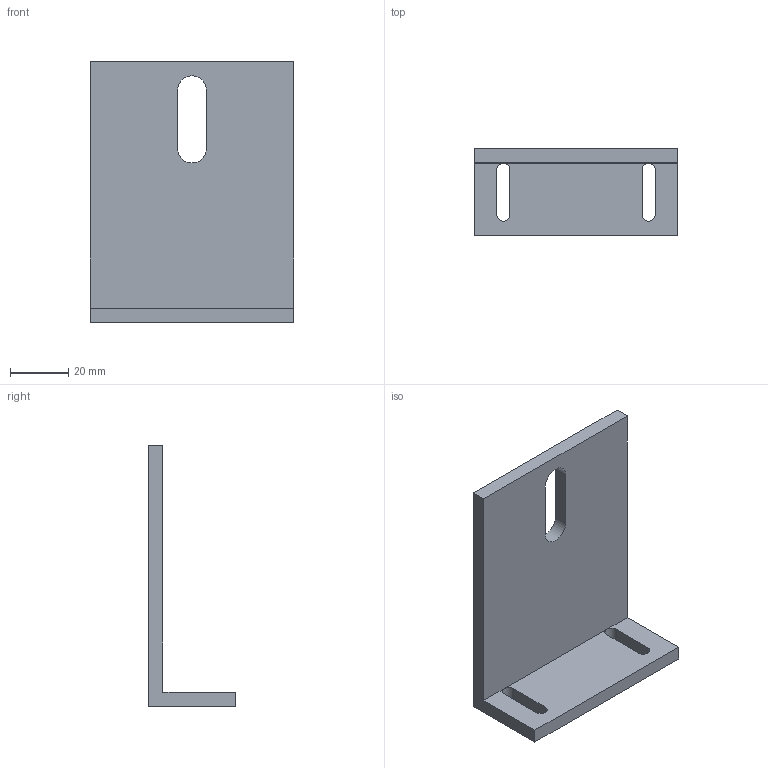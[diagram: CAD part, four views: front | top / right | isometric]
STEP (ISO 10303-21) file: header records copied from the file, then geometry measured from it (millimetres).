
FILE_DESCRIPTION(('Open CASCADE Model'),'2;1');
FILE_NAME('Open CASCADE Shape Model','2026-10-21T16:54:03',('Author'),( 'Open CASCADE'),'Open CASCADE STEP processor 7.9','Open CASCADE 7.9' ,'Unknown');
FILE_SCHEMA(('AUTOMOTIVE_DESIGN { 1 0 10303 214 1 1 1 1 }'));
Length unit declared in the file: millimetre
Products named in the file (1): Open CASCADE STEP translator 7.9 57
Bounding box: 70 x 30 x 90 mm (x, y, z)
Volume: 38000.8 mm3; surface area: 17858.8 mm2
Topology: 1 solids, 1 shells, 20 faces, 58 edges, 38 vertices
Faces by surface type: plane 14, cylinder 6
Entity records: 1474 total; most frequent: CARTESIAN_POINT 295, DIRECTION 220, LINE 146, VECTOR 146, ORIENTED_EDGE 116, PCURVE 116, DEFINITIONAL_REPRESENTATION 116, EDGE_CURVE 58
